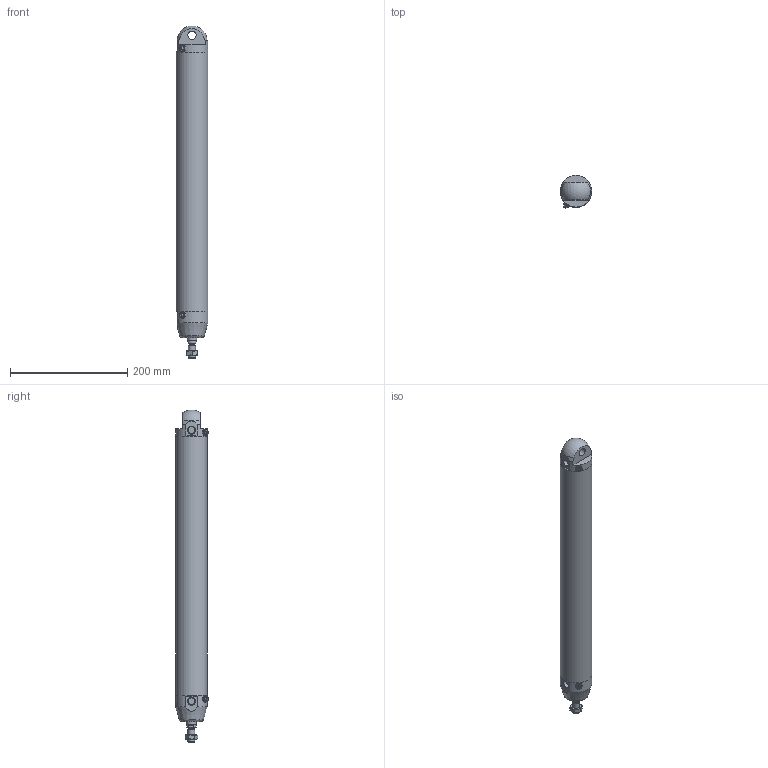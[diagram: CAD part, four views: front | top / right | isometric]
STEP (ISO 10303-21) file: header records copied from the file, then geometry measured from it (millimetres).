
FILE_DESCRIPTION(/* description */ (''),/* implementation_level */ '2;1');
FILE_NAME(/* name */ 'I:\Area Tecnica\Documenti\A-Manieri\_Inventor\12X\12X#A_###_####_#_#\12XBA_050_0400_#_#.stp',/* time_stamp */ '2015-04-24T09:19:21+02:00',/* author */ ('maniean1'),/* organization */ ('Pneumax S.p.A.'),/* preprocessor_version */ 'ST-DEVELOPER v15.2',/* originating_system */ 'Autodesk Inventor 2014',/* authorisation */ '');
FILE_SCHEMA (('AUTOMOTIVE_DESIGN { 1 0 10303 214 3 1 1 }'));
Length unit declared in the file: millimetre
Products named in the file (6): C1250_619-0400; 12X50_614; 12X50_607; S12X50_0400; 12X_50_11; 12XBA_050_0400_#_#
Bounding box: 54 x 55.88 x 566.83 mm (x, y, z)
Volume: 465973.3 mm3; surface area: 204795.1 mm2
Topology: 5 solids, 5 shells, 77 faces, 168 edges, 109 vertices
Faces by surface type: plane 43, cylinder 18, cone 12, torus 3, sphere 1
Full cylindrical faces by diameter (mm): 5 x2, 10.2 x1, 11 x2, 11.4 x2, 12 x2, 14 x2, 15.6 x1, 16 x1, 50 x2, 54 x3
Entity records: 2072 total; most frequent: CARTESIAN_POINT 428, DIRECTION 346, ORIENTED_EDGE 260, AXIS2_PLACEMENT_3D 152, EDGE_CURVE 130, EDGE_LOOP 122, VERTEX_POINT 100, ADVANCED_FACE 77
